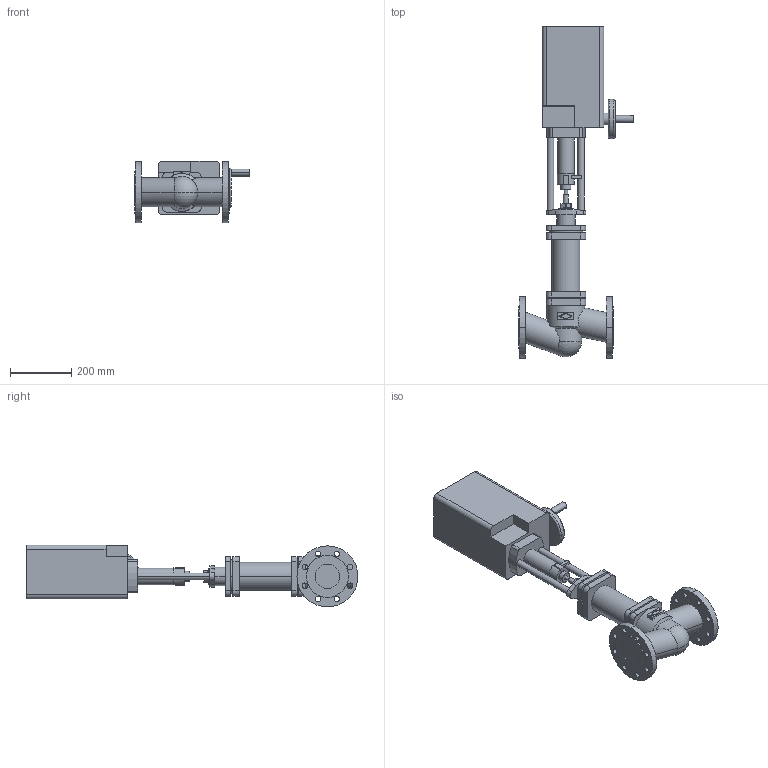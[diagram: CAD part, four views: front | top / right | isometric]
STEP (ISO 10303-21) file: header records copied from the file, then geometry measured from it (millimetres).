
FILE_DESCRIPTION(('CoCreate Modeling STEP Export'),'2;1');
FILE_NAME('c000002099.stp','2011-10-11T12:37:38',(''),(''),'CoCreate Modeling STEP processor for AP214 (Solid Model)','CoCreate Modeling 17.0 01-Apr-2010 (C) Parametric Technology GmbH','');
FILE_SCHEMA(('AUTOMOTIVE_DESIGN { 1 0 10303 214 1 1 1 1 }'));
Length unit declared in the file: millimetre
Products named in the file (2): 1; 2
Bounding box: 376.5 x 1087.2 x 202.5 mm (x, y, z)
Volume: 19619908.7 mm3; surface area: 864826.5 mm2
Topology: 2 solids, 2 shells, 231 faces, 578 edges, 382 vertices
Faces by surface type: cylinder 120, plane 103, torus 4, sphere 2, cone 2
Entity records: 8589 total; most frequent: CARTESIAN_POINT 1360, ORIENTED_EDGE 1152, DIRECTION 1030, EDGE_CURVE 576, VERTEX_POINT 382, AXIS2_PLACEMENT_3D 366, VECTOR 298, LINE 298
